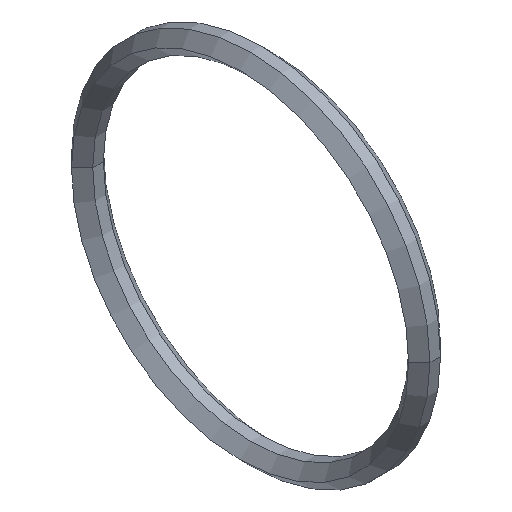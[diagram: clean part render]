
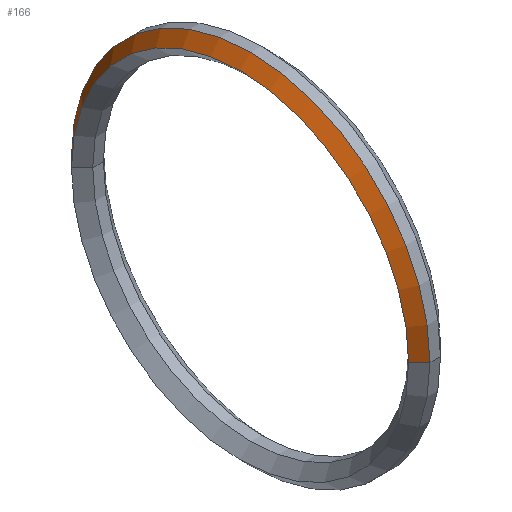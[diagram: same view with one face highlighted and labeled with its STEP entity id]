
A CAD part, isometric view. The second image highlights one B-rep face of the part: STEP entity #166.
In plain terms, the highlighted conical face has half-angle 45 degrees and reference radius 24.55 mm.
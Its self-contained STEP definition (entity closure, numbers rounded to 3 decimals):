
#125=CARTESIAN_POINT('',(-1.5,0.0,0.0));
#126=DIRECTION('',(1.0,0.0,0.0));
#127=DIRECTION('',(0.0,1.0,0.0));
#128=AXIS2_PLACEMENT_3D('',#125,#126,#127);
#129=CONICAL_SURFACE('',#128,24.55,45.);
#130=CARTESIAN_POINT('',(-2.25,23.8,0.0));
#131=VERTEX_POINT('',#130);
#132=CARTESIAN_POINT('',(-0.75,25.3,0.0));
#133=VERTEX_POINT('',#132);
#134=CARTESIAN_POINT('',(-2.25,23.8,0.0));
#135=DIRECTION('',(0.707,0.707,0.0));
#136=VECTOR('',#135,2.121);
#137=LINE('',#134,#136);
#138=EDGE_CURVE('',#131,#133,#137,.T.);
#139=ORIENTED_EDGE('',*,*,#138,.F.);
#140=CARTESIAN_POINT('',(-2.25,-23.8,0.));
#141=VERTEX_POINT('',#140);
#142=CARTESIAN_POINT('',(-2.25,0.0,0.0));
#143=DIRECTION('',(1.0,0.0,0.0));
#144=DIRECTION('',(0.0,1.0,0.0));
#145=AXIS2_PLACEMENT_3D('',#142,#143,#144);
#146=CIRCLE('',#145,23.8);
#147=EDGE_CURVE('',#131,#141,#146,.T.);
#148=ORIENTED_EDGE('',*,*,#147,.T.);
#149=CARTESIAN_POINT('',(-0.75,-25.3,0.));
#150=VERTEX_POINT('',#149);
#151=CARTESIAN_POINT('',(-0.75,-25.3,0.));
#152=DIRECTION('',(-0.707,0.707,0.));
#153=VECTOR('',#152,2.121);
#154=LINE('',#151,#153);
#155=EDGE_CURVE('',#150,#141,#154,.T.);
#156=ORIENTED_EDGE('',*,*,#155,.F.);
#157=CARTESIAN_POINT('',(-0.75,0.0,0.0));
#158=DIRECTION('',(1.0,0.0,0.0));
#159=DIRECTION('',(0.0,1.0,0.0));
#160=AXIS2_PLACEMENT_3D('',#157,#158,#159);
#161=CIRCLE('',#160,25.3);
#162=EDGE_CURVE('',#133,#150,#161,.T.);
#163=ORIENTED_EDGE('',*,*,#162,.F.);
#164=EDGE_LOOP('',(#139,#148,#156,#163));
#165=FACE_OUTER_BOUND('',#164,.T.);
#166=ADVANCED_FACE('',(#165),#129,.T.);
